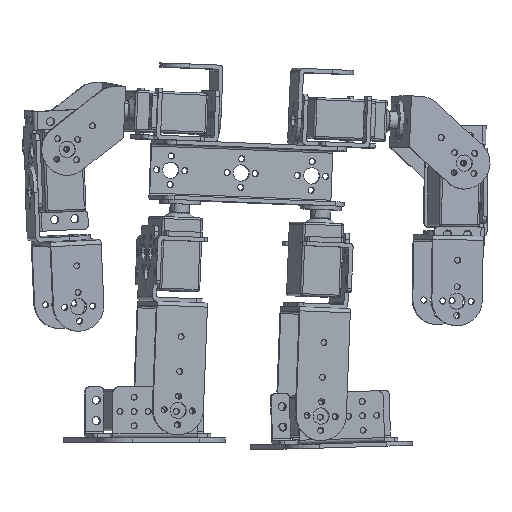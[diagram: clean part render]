
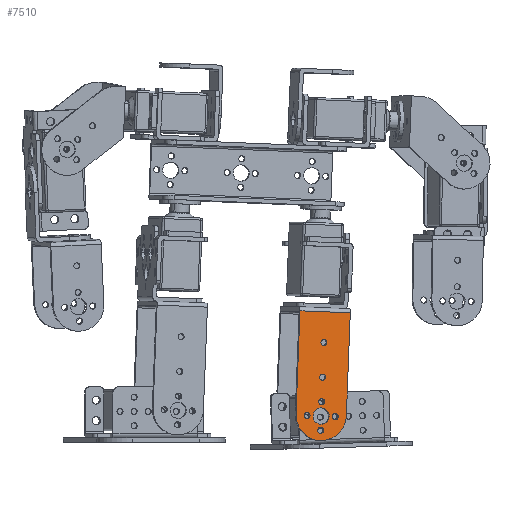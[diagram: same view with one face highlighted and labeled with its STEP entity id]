
A CAD part, front view. The second image highlights one B-rep face of the part: STEP entity #7510.
In plain terms, the highlighted planar face has unit normal (0.174, -0.985, 0) as drawn and (1, 0, 0) by its records, which use the part's own axes.
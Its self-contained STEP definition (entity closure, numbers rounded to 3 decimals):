
#7332=CARTESIAN_POINT('Vertex',(28.,-12.5,52.5)) ;
#7335=CARTESIAN_POINT('Axis2P3D Location',(28.,0.,52.5)) ;
#7339=CARTESIAN_POINT('Vertex',(28.,12.5,52.5)) ;
#7354=CARTESIAN_POINT('Axis2P3D Location',(28.,-12.5,0.)) ;
#7359=CARTESIAN_POINT('Line Origine',(28.,12.5,27.25)) ;
#7363=CARTESIAN_POINT('Vertex',(28.,12.5,2.)) ;
#7366=CARTESIAN_POINT('Line Origine',(28.,-12.5,27.25)) ;
#7370=CARTESIAN_POINT('Vertex',(28.,-12.5,2.)) ;
#7373=CARTESIAN_POINT('Line Origine',(28.,0.,2.)) ;
#7384=CARTESIAN_POINT('Axis2P3D Location',(28.,0.,34.)) ;
#7388=CARTESIAN_POINT('Vertex',(28.,1.5,34.)) ;
#7390=CARTESIAN_POINT('Vertex',(28.,-1.5,34.)) ;
#7393=CARTESIAN_POINT('Axis2P3D Location',(28.,0.,34.)) ;
#7402=CARTESIAN_POINT('Axis2P3D Location',(28.,-7.,53.)) ;
#7406=CARTESIAN_POINT('Vertex',(28.,-5.5,53.)) ;
#7408=CARTESIAN_POINT('Vertex',(28.,-8.5,53.)) ;
#7411=CARTESIAN_POINT('Axis2P3D Location',(28.,-7.,53.)) ;
#7420=CARTESIAN_POINT('Axis2P3D Location',(28.,0.,60.)) ;
#7424=CARTESIAN_POINT('Vertex',(28.,1.5,60.)) ;
#7426=CARTESIAN_POINT('Vertex',(28.,-1.5,60.)) ;
#7429=CARTESIAN_POINT('Axis2P3D Location',(28.,0.,60.)) ;
#7438=CARTESIAN_POINT('Axis2P3D Location',(28.,7.,53.)) ;
#7442=CARTESIAN_POINT('Vertex',(28.,8.5,53.)) ;
#7444=CARTESIAN_POINT('Vertex',(28.,5.5,53.)) ;
#7447=CARTESIAN_POINT('Axis2P3D Location',(28.,7.,53.)) ;
#7456=CARTESIAN_POINT('Axis2P3D Location',(28.,0.,53.)) ;
#7460=CARTESIAN_POINT('Vertex',(28.,4.,53.)) ;
#7462=CARTESIAN_POINT('Vertex',(28.,-4.,53.)) ;
#7465=CARTESIAN_POINT('Axis2P3D Location',(28.,0.,53.)) ;
#7474=CARTESIAN_POINT('Axis2P3D Location',(28.,0.,46.)) ;
#7478=CARTESIAN_POINT('Vertex',(28.,-1.5,46.)) ;
#7480=CARTESIAN_POINT('Vertex',(28.,1.5,46.)) ;
#7483=CARTESIAN_POINT('Axis2P3D Location',(28.,0.,46.)) ;
#7492=CARTESIAN_POINT('Axis2P3D Location',(28.,0.,17.)) ;
#7496=CARTESIAN_POINT('Vertex',(28.,-1.5,17.)) ;
#7498=CARTESIAN_POINT('Vertex',(28.,1.5,17.)) ;
#7501=CARTESIAN_POINT('Axis2P3D Location',(28.,0.,17.)) ;
#7336=DIRECTION('Axis2P3D Direction',(1.,0.,0.)) ;
#7355=DIRECTION('Axis2P3D Direction',(1.,0.,0.)) ;
#7356=DIRECTION('Axis2P3D XDirection',(0.,1.,0.)) ;
#7360=DIRECTION('Vector Direction',(0.,0.,-1.)) ;
#7367=DIRECTION('Vector Direction',(0.,0.,-1.)) ;
#7374=DIRECTION('Vector Direction',(0.,1.,0.)) ;
#7385=DIRECTION('Axis2P3D Direction',(1.,0.,0.)) ;
#7394=DIRECTION('Axis2P3D Direction',(1.,0.,0.)) ;
#7403=DIRECTION('Axis2P3D Direction',(1.,0.,0.)) ;
#7412=DIRECTION('Axis2P3D Direction',(1.,0.,0.)) ;
#7421=DIRECTION('Axis2P3D Direction',(1.,0.,0.)) ;
#7430=DIRECTION('Axis2P3D Direction',(1.,0.,0.)) ;
#7439=DIRECTION('Axis2P3D Direction',(1.,0.,0.)) ;
#7448=DIRECTION('Axis2P3D Direction',(1.,0.,0.)) ;
#7457=DIRECTION('Axis2P3D Direction',(1.,0.,0.)) ;
#7466=DIRECTION('Axis2P3D Direction',(1.,0.,0.)) ;
#7475=DIRECTION('Axis2P3D Direction',(1.,0.,0.)) ;
#7484=DIRECTION('Axis2P3D Direction',(1.,0.,0.)) ;
#7493=DIRECTION('Axis2P3D Direction',(1.,0.,0.)) ;
#7502=DIRECTION('Axis2P3D Direction',(1.,0.,0.)) ;
#7337=AXIS2_PLACEMENT_3D('Circle Axis2P3D',#7335,#7336,$) ;
#7357=AXIS2_PLACEMENT_3D('Plane Axis2P3D',#7354,#7355,#7356) ;
#7386=AXIS2_PLACEMENT_3D('Circle Axis2P3D',#7384,#7385,$) ;
#7395=AXIS2_PLACEMENT_3D('Circle Axis2P3D',#7393,#7394,$) ;
#7404=AXIS2_PLACEMENT_3D('Circle Axis2P3D',#7402,#7403,$) ;
#7413=AXIS2_PLACEMENT_3D('Circle Axis2P3D',#7411,#7412,$) ;
#7422=AXIS2_PLACEMENT_3D('Circle Axis2P3D',#7420,#7421,$) ;
#7431=AXIS2_PLACEMENT_3D('Circle Axis2P3D',#7429,#7430,$) ;
#7440=AXIS2_PLACEMENT_3D('Circle Axis2P3D',#7438,#7439,$) ;
#7449=AXIS2_PLACEMENT_3D('Circle Axis2P3D',#7447,#7448,$) ;
#7458=AXIS2_PLACEMENT_3D('Circle Axis2P3D',#7456,#7457,$) ;
#7467=AXIS2_PLACEMENT_3D('Circle Axis2P3D',#7465,#7466,$) ;
#7476=AXIS2_PLACEMENT_3D('Circle Axis2P3D',#7474,#7475,$) ;
#7485=AXIS2_PLACEMENT_3D('Circle Axis2P3D',#7483,#7484,$) ;
#7494=AXIS2_PLACEMENT_3D('Circle Axis2P3D',#7492,#7493,$) ;
#7503=AXIS2_PLACEMENT_3D('Circle Axis2P3D',#7501,#7502,$) ;
#7379=ORIENTED_EDGE('',*,*,#7365,.T.) ;
#7380=ORIENTED_EDGE('',*,*,#7341,.T.) ;
#7381=ORIENTED_EDGE('',*,*,#7372,.T.) ;
#7382=ORIENTED_EDGE('',*,*,#7377,.T.) ;
#7399=ORIENTED_EDGE('',*,*,#7392,.F.) ;
#7400=ORIENTED_EDGE('',*,*,#7397,.F.) ;
#7417=ORIENTED_EDGE('',*,*,#7410,.F.) ;
#7418=ORIENTED_EDGE('',*,*,#7415,.F.) ;
#7435=ORIENTED_EDGE('',*,*,#7428,.F.) ;
#7436=ORIENTED_EDGE('',*,*,#7433,.F.) ;
#7453=ORIENTED_EDGE('',*,*,#7446,.F.) ;
#7454=ORIENTED_EDGE('',*,*,#7451,.F.) ;
#7471=ORIENTED_EDGE('',*,*,#7464,.F.) ;
#7472=ORIENTED_EDGE('',*,*,#7469,.F.) ;
#7489=ORIENTED_EDGE('',*,*,#7482,.F.) ;
#7490=ORIENTED_EDGE('',*,*,#7487,.F.) ;
#7507=ORIENTED_EDGE('',*,*,#7500,.F.) ;
#7508=ORIENTED_EDGE('',*,*,#7505,.F.) ;
#7401=FACE_BOUND('',#7398,.T.) ;
#7419=FACE_BOUND('',#7416,.T.) ;
#7437=FACE_BOUND('',#7434,.T.) ;
#7455=FACE_BOUND('',#7452,.T.) ;
#7473=FACE_BOUND('',#7470,.T.) ;
#7491=FACE_BOUND('',#7488,.T.) ;
#7509=FACE_BOUND('',#7506,.T.) ;
#7361=VECTOR('Line Direction',#7360,1.) ;
#7368=VECTOR('Line Direction',#7367,1.) ;
#7375=VECTOR('Line Direction',#7374,1.) ;
#7510=ADVANCED_FACE('Corps principal',(#7383,#7401,#7419,#7437,#7455,#7473,#7491,#7509),#7358,.T.) ;
#7338=CIRCLE('generated circle',#7337,12.5) ;
#7387=CIRCLE('generated circle',#7386,1.5) ;
#7396=CIRCLE('generated circle',#7395,1.5) ;
#7405=CIRCLE('generated circle',#7404,1.5) ;
#7414=CIRCLE('generated circle',#7413,1.5) ;
#7423=CIRCLE('generated circle',#7422,1.5) ;
#7432=CIRCLE('generated circle',#7431,1.5) ;
#7441=CIRCLE('generated circle',#7440,1.5) ;
#7450=CIRCLE('generated circle',#7449,1.5) ;
#7459=CIRCLE('generated circle',#7458,4.) ;
#7468=CIRCLE('generated circle',#7467,4.) ;
#7477=CIRCLE('generated circle',#7476,1.5) ;
#7486=CIRCLE('generated circle',#7485,1.5) ;
#7495=CIRCLE('generated circle',#7494,1.5) ;
#7504=CIRCLE('generated circle',#7503,1.5) ;
#7341=EDGE_CURVE('',#7340,#7333,#7338,.T.) ;
#7365=EDGE_CURVE('',#7364,#7340,#7362,.F.) ;
#7372=EDGE_CURVE('',#7333,#7371,#7369,.T.) ;
#7377=EDGE_CURVE('',#7371,#7364,#7376,.T.) ;
#7392=EDGE_CURVE('',#7389,#7391,#7387,.T.) ;
#7397=EDGE_CURVE('',#7391,#7389,#7396,.T.) ;
#7410=EDGE_CURVE('',#7407,#7409,#7405,.T.) ;
#7415=EDGE_CURVE('',#7409,#7407,#7414,.T.) ;
#7428=EDGE_CURVE('',#7425,#7427,#7423,.T.) ;
#7433=EDGE_CURVE('',#7427,#7425,#7432,.T.) ;
#7446=EDGE_CURVE('',#7443,#7445,#7441,.T.) ;
#7451=EDGE_CURVE('',#7445,#7443,#7450,.T.) ;
#7464=EDGE_CURVE('',#7461,#7463,#7459,.T.) ;
#7469=EDGE_CURVE('',#7463,#7461,#7468,.T.) ;
#7482=EDGE_CURVE('',#7479,#7481,#7477,.T.) ;
#7487=EDGE_CURVE('',#7481,#7479,#7486,.T.) ;
#7500=EDGE_CURVE('',#7497,#7499,#7495,.T.) ;
#7505=EDGE_CURVE('',#7499,#7497,#7504,.T.) ;
#7378=EDGE_LOOP('',(#7379,#7380,#7381,#7382)) ;
#7398=EDGE_LOOP('',(#7399,#7400)) ;
#7416=EDGE_LOOP('',(#7417,#7418)) ;
#7434=EDGE_LOOP('',(#7435,#7436)) ;
#7452=EDGE_LOOP('',(#7453,#7454)) ;
#7470=EDGE_LOOP('',(#7471,#7472)) ;
#7488=EDGE_LOOP('',(#7489,#7490)) ;
#7506=EDGE_LOOP('',(#7507,#7508)) ;
#7383=FACE_OUTER_BOUND('',#7378,.T.) ;
#7362=LINE('Line',#7359,#7361) ;
#7369=LINE('Line',#7366,#7368) ;
#7376=LINE('Line',#7373,#7375) ;
#7358=PLANE('Plane',#7357) ;
#7333=VERTEX_POINT('',#7332) ;
#7340=VERTEX_POINT('',#7339) ;
#7364=VERTEX_POINT('',#7363) ;
#7371=VERTEX_POINT('',#7370) ;
#7389=VERTEX_POINT('',#7388) ;
#7391=VERTEX_POINT('',#7390) ;
#7407=VERTEX_POINT('',#7406) ;
#7409=VERTEX_POINT('',#7408) ;
#7425=VERTEX_POINT('',#7424) ;
#7427=VERTEX_POINT('',#7426) ;
#7443=VERTEX_POINT('',#7442) ;
#7445=VERTEX_POINT('',#7444) ;
#7461=VERTEX_POINT('',#7460) ;
#7463=VERTEX_POINT('',#7462) ;
#7479=VERTEX_POINT('',#7478) ;
#7481=VERTEX_POINT('',#7480) ;
#7497=VERTEX_POINT('',#7496) ;
#7499=VERTEX_POINT('',#7498) ;
